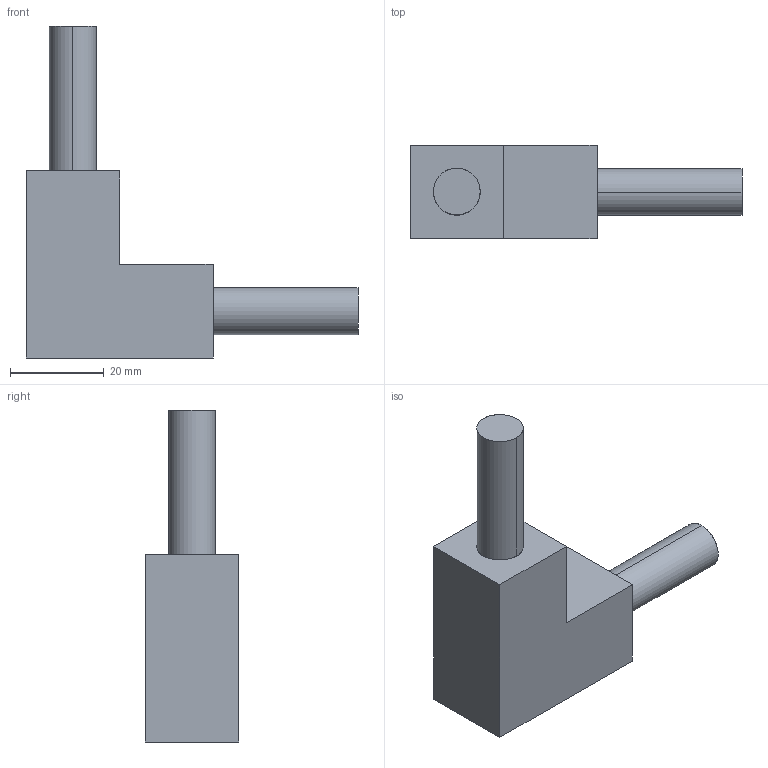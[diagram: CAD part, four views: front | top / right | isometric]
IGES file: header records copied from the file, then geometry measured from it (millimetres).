
Start section: SolidWorks IGES file using analytic representation for surfaces
Global section: file name: C:\Users\tungari.NEMOLIGHTING\Desktop\3D\SYSTEMS\3D_LINESCAPES_SYSTEMS\3D_LINESCAPES_DOWN_VERT_ANGLE\3D_LINESCAPES_DOWN_VERT_ANGLE.IGS; native system: SolidWorks 2016; preprocessor: SolidWorks 2016; author: tungari; date: 180302.165916; units: millimetre
Bounding box: 71 x 20 x 71 mm (x, y, z)
Surface area: 7862 mm2 (no closed solid volume)
Topology: 0 solids, 0 shells, 16 faces, 180 edges, 180 vertices
Faces by surface type: bspline 12, revolution 4
